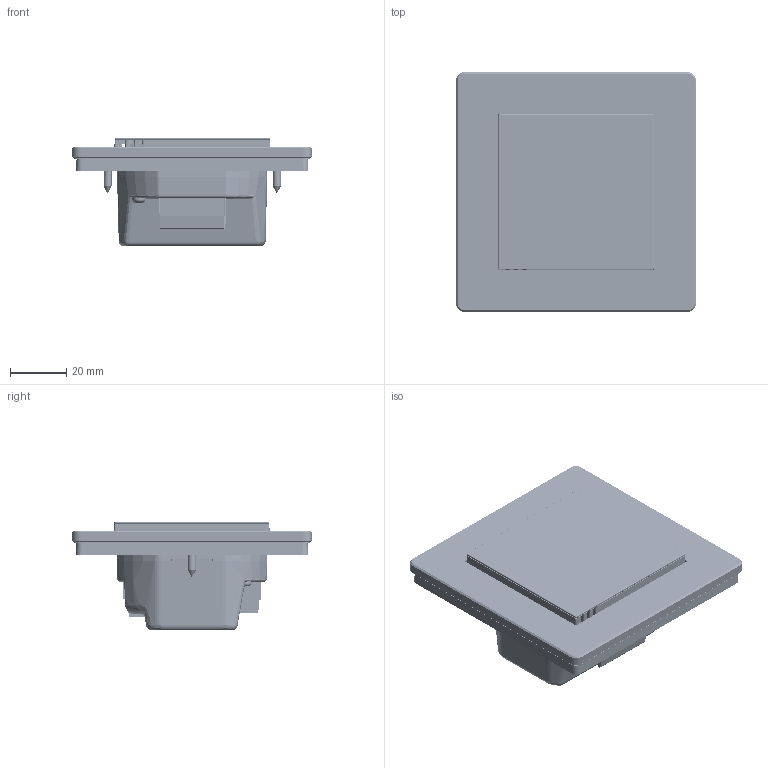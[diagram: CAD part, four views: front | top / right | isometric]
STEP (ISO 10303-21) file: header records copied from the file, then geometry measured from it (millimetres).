
FILE_DESCRIPTION(/* description */ ('','CAx-IF Rec.Pracs.---Representation and Presentation of Product Manufacturing Information (PMI)---4.0---2014-10-13'),/* implementation_level */ '2;1');
FILE_NAME(/* name */ 'FS-02m.step',/* time_stamp */ '2025-02-23T20:09:17+01:00',/* author */ (''),/* organization */ (''),/* preprocessor_version */ 'ST-DEVELOPER v20',/* originating_system */ 'Autodesk Translation Framework v13.20.0.188',/* authorisation */ '');
FILE_SCHEMA (('AP242_MANAGED_MODEL_BASED_3D_ENGINEERING_MIM_LF { 1 0 10303 442 1 1 4 }'));
Products named in the file (29): wersja 1.3_eink; tht prosty L20; tht prosty; microUSB_pionowe; Gniazdo rast2; spod1; Plytka1.2; Led_izolator_ramka_01; szkło_eink; Gora2; PODSWIETLENIE; FS-02 FARMA v1; ramka_1; PODSTAWA RAMKI SZKLANEJ 1; logo sinum-tech; szkło RAMKI SZKLANEJ 1; 3m_01; Wkręt samogwintujący PN-EN ISO 7050 - ST 2.9 x 
9.5 - C - H Stal 8.8 Płaszczyzna v1; przełącznik szklany; szkło; tył klawisz; OP-1398_C; Blacha1.2; DIN ISO 7049 - C-H ST2.2 x 9.5 - C - H; WS-01  FARBA; OP-1399_K; FOB08D880ED1gk8; PODSWIETLENIE_1; DG128-5.0-02P-14-00AH
Assembly tree (48 placements, depth 4):
  wersja 1.3_eink
    tht prosty L20  x8
    tht prosty  x8
    microUSB_pionowe
    Gniazdo rast2
    spod1
    Plytka1.2
    Led_izolator_ramka_01
    szkło_eink
    Gora2
    PODSWIETLENIE  x2
    FS-02 FARMA v1
    ramka_1
      PODSTAWA RAMKI SZKLANEJ 1
      logo sinum-tech
      szkło RAMKI SZKLANEJ 1
      3m_01
    Wkręt samogwintujący PN-EN ISO 7050 - ST 2.9 x 
9.5 - C - H Stal 8.8 Płaszczyzna v1  x2
    przełącznik szklany
      szkło
      PODSWIETLENIE_1  x3
      tył klawisz
        OP-1398_C
        Blacha1.2
        DIN ISO 7049 - C-H ST2.2 x 9.5 - C - H  x2
      WS-01  FARBA
      OP-1399_K
      DG128-5.0-02P-14-00AH  x2
      FOB08D880ED1gk8
Bounding box: 85 x 85 x 38.62 mm (x, y, z)
Volume: 69349.4 mm3; surface area: 97366.8 mm2
Topology: 58 solids, 58 shells, 9046 faces, 24984 edges, 16337 vertices
Faces by surface type: plane 3516, cone 3400, bspline 1204, cylinder 665, torus 196, sphere 65
Full cylindrical faces by diameter (mm): 0.25 x1, 0.437 x1, 0.601 x1, 0.8 x4, 1 x5, 1.7 x2, 2 x1, 2.2 x2, 2.4 x2, 2.83 x2, 2.9 x3, 3.5 x4, 4 x4, 4.099 x6, 4.1 x8, 5.5 x2
Entity records: 218706 total; most frequent: CARTESIAN_POINT 67105, ORIENTED_EDGE 31330, DIRECTION 28225, EDGE_CURVE 15665, VERTEX_POINT 11239, LINE 9875, VECTOR 9875, AXIS2_PLACEMENT_3D 9175
